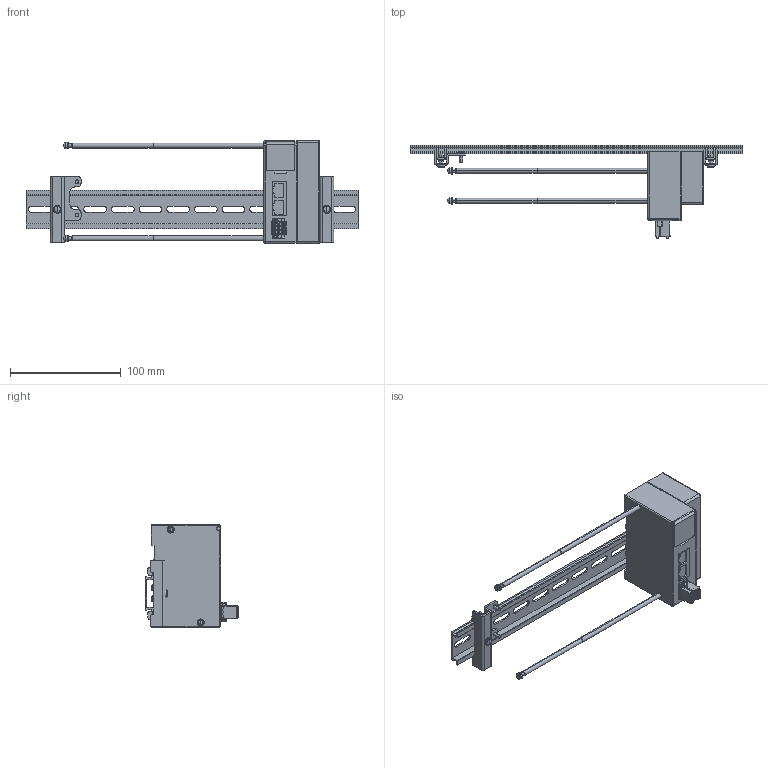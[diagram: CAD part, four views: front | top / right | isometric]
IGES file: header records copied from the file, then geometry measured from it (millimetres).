
Start section: ------------------------------------------------------------------------
Bounding box: 300 x 84.4 x 93 mm (x, y, z)
Volume: 290805.8 mm3; surface area: 78505.8 mm2
Topology: 4 solids, 4 shells, 1051 faces, 2763 edges, 1773 vertices
Faces by surface type: bspline 1051
